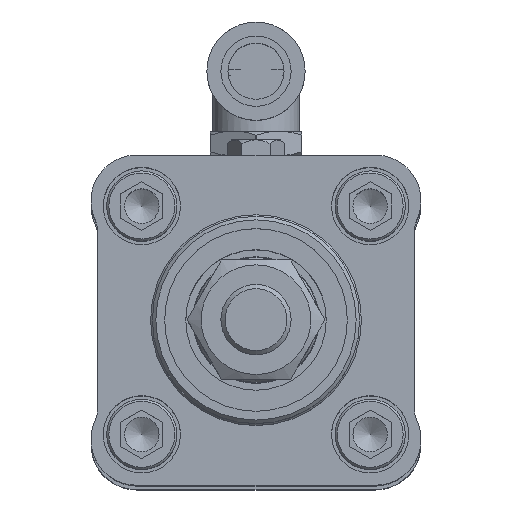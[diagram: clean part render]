
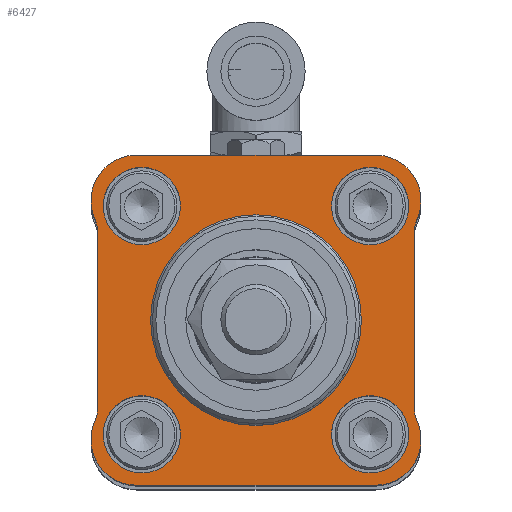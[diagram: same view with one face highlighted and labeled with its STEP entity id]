
A CAD part, top view. The second image highlights one B-rep face of the part: STEP entity #6427.
In plain terms, the highlighted planar face has unit normal (0, 0, 1) as drawn and (-1, 0, 0) by its records, which use the part's own axes.
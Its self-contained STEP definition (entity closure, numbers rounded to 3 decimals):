
#348=LINE('',#9534,#606);
#352=LINE('',#9546,#610);
#356=LINE('',#9558,#614);
#360=LINE('',#9570,#618);
#606=VECTOR('',#8016,1000.);
#610=VECTOR('',#8030,1000.);
#614=VECTOR('',#8044,1000.);
#618=VECTOR('',#8058,1000.);
#780=PLANE('',#6936);
#1615=ORIENTED_EDGE('',*,*,#2376,.T.);
#1616=ORIENTED_EDGE('',*,*,#2377,.T.);
#1617=ORIENTED_EDGE('',*,*,#2378,.T.);
#1618=ORIENTED_EDGE('',*,*,#2379,.T.);
#1619=ORIENTED_EDGE('',*,*,#2380,.T.);
#1620=ORIENTED_EDGE('',*,*,#2353,.T.);
#1621=ORIENTED_EDGE('',*,*,#2356,.F.);
#1622=ORIENTED_EDGE('',*,*,#2358,.T.);
#1623=ORIENTED_EDGE('',*,*,#2360,.F.);
#1624=ORIENTED_EDGE('',*,*,#2362,.F.);
#1625=ORIENTED_EDGE('',*,*,#2364,.F.);
#1626=ORIENTED_EDGE('',*,*,#2366,.T.);
#1627=ORIENTED_EDGE('',*,*,#2368,.F.);
#1628=ORIENTED_EDGE('',*,*,#2370,.T.);
#1629=ORIENTED_EDGE('',*,*,#2372,.F.);
#1630=ORIENTED_EDGE('',*,*,#2374,.F.);
#1631=ORIENTED_EDGE('',*,*,#2375,.F.);
#2353=EDGE_CURVE('',#2830,#2829,#3123,.T.);
#2356=EDGE_CURVE('',#2831,#2829,#348,.T.);
#2358=EDGE_CURVE('',#2831,#2832,#3124,.T.);
#2360=EDGE_CURVE('',#2833,#2832,#3125,.T.);
#2362=EDGE_CURVE('',#2834,#2833,#352,.T.);
#2364=EDGE_CURVE('',#2835,#2834,#3126,.T.);
#2366=EDGE_CURVE('',#2835,#2836,#3127,.T.);
#2368=EDGE_CURVE('',#2837,#2836,#356,.T.);
#2370=EDGE_CURVE('',#2837,#2838,#3128,.T.);
#2372=EDGE_CURVE('',#2839,#2838,#3129,.T.);
#2374=EDGE_CURVE('',#2840,#2839,#360,.T.);
#2375=EDGE_CURVE('',#2830,#2840,#3130,.T.);
#2376=EDGE_CURVE('',#2841,#2841,#3131,.T.);
#2377=EDGE_CURVE('',#2842,#2842,#3132,.T.);
#2378=EDGE_CURVE('',#2843,#2843,#3133,.T.);
#2379=EDGE_CURVE('',#2844,#2844,#3134,.T.);
#2380=EDGE_CURVE('',#2845,#2845,#3135,.T.);
#2829=VERTEX_POINT('',#9527);
#2830=VERTEX_POINT('',#9529);
#2831=VERTEX_POINT('',#9533);
#2832=VERTEX_POINT('',#9537);
#2833=VERTEX_POINT('',#9541);
#2834=VERTEX_POINT('',#9545);
#2835=VERTEX_POINT('',#9549);
#2836=VERTEX_POINT('',#9553);
#2837=VERTEX_POINT('',#9557);
#2838=VERTEX_POINT('',#9561);
#2839=VERTEX_POINT('',#9565);
#2840=VERTEX_POINT('',#9569);
#2841=VERTEX_POINT('',#9575);
#2842=VERTEX_POINT('',#9577);
#2843=VERTEX_POINT('',#9579);
#2844=VERTEX_POINT('',#9581);
#2845=VERTEX_POINT('',#9583);
#3123=CIRCLE('',#6917,4.5);
#3124=CIRCLE('',#6920,4.5);
#3125=CIRCLE('',#6922,6.5);
#3126=CIRCLE('',#6925,6.5);
#3127=CIRCLE('',#6927,4.5);
#3128=CIRCLE('',#6930,4.5);
#3129=CIRCLE('',#6932,6.5);
#3130=CIRCLE('',#6935,6.5);
#3131=CIRCLE('',#6937,15.);
#3132=CIRCLE('',#6938,5.5);
#3133=CIRCLE('',#6939,5.5);
#3134=CIRCLE('',#6940,5.5);
#3135=CIRCLE('',#6941,5.5);
#3494=EDGE_LOOP('',(#1615));
#3495=EDGE_LOOP('',(#1616));
#3496=EDGE_LOOP('',(#1617));
#3497=EDGE_LOOP('',(#1618));
#3498=EDGE_LOOP('',(#1619));
#3499=EDGE_LOOP('',(#1620,#1621,#1622,#1623,#1624,#1625,#1626,#1627,#1628,
#1629,#1630,#1631));
#3979=FACE_BOUND('',#3494,.T.);
#3980=FACE_BOUND('',#3495,.T.);
#3981=FACE_BOUND('',#3496,.T.);
#3982=FACE_BOUND('',#3497,.T.);
#3983=FACE_BOUND('',#3498,.T.);
#3984=FACE_BOUND('',#3499,.T.);
#6427=ADVANCED_FACE('',(#3979,#3980,#3981,#3982,#3983,#3984),#780,.F.);
#6917=AXIS2_PLACEMENT_3D('',#9528,#8010,#8011);
#6920=AXIS2_PLACEMENT_3D('',#9538,#8020,#8021);
#6922=AXIS2_PLACEMENT_3D('',#9542,#8025,#8026);
#6925=AXIS2_PLACEMENT_3D('',#9550,#8034,#8035);
#6927=AXIS2_PLACEMENT_3D('',#9554,#8039,#8040);
#6930=AXIS2_PLACEMENT_3D('',#9562,#8048,#8049);
#6932=AXIS2_PLACEMENT_3D('',#9566,#8053,#8054);
#6935=AXIS2_PLACEMENT_3D('',#9572,#8061,#8062);
#6936=AXIS2_PLACEMENT_3D('',#9573,#8063,#8064);
#6937=AXIS2_PLACEMENT_3D('',#9574,#8065,#8066);
#6938=AXIS2_PLACEMENT_3D('',#9576,#8067,#8068);
#6939=AXIS2_PLACEMENT_3D('',#9578,#8069,#8070);
#6940=AXIS2_PLACEMENT_3D('',#9580,#8071,#8072);
#6941=AXIS2_PLACEMENT_3D('',#9582,#8073,#8074);
#8010=DIRECTION('',(1.,0.,0.));
#8011=DIRECTION('',(0.,0.,-1.));
#8016=DIRECTION('',(0.,-1.,0.));
#8020=DIRECTION('',(1.,0.,0.));
#8021=DIRECTION('',(0.,0.,-1.));
#8025=DIRECTION('',(1.,0.,0.));
#8026=DIRECTION('',(0.,0.,-1.));
#8030=DIRECTION('',(0.,0.,1.));
#8034=DIRECTION('',(1.,0.,0.));
#8035=DIRECTION('',(0.,0.,-1.));
#8039=DIRECTION('',(1.,0.,0.));
#8040=DIRECTION('',(0.,0.,-1.));
#8044=DIRECTION('',(0.,1.,0.));
#8048=DIRECTION('',(1.,0.,0.));
#8049=DIRECTION('',(0.,0.,-1.));
#8053=DIRECTION('',(1.,0.,0.));
#8054=DIRECTION('',(0.,0.,-1.));
#8058=DIRECTION('',(0.,0.,-1.));
#8061=DIRECTION('',(1.,0.,0.));
#8062=DIRECTION('',(0.,0.,-1.));
#8063=DIRECTION('',(1.,0.,0.));
#8064=DIRECTION('',(0.,0.,-1.));
#8065=DIRECTION('',(1.,0.,0.));
#8066=DIRECTION('',(0.,0.,-1.));
#8067=DIRECTION('',(1.,0.,0.));
#8068=DIRECTION('',(0.,0.,-1.));
#8069=DIRECTION('',(1.,0.,0.));
#8070=DIRECTION('',(0.,0.,-1.));
#8071=DIRECTION('',(1.,0.,0.));
#8072=DIRECTION('',(0.,0.,-1.));
#8073=DIRECTION('',(1.,0.,0.));
#8074=DIRECTION('',(0.,0.,-1.));
#9527=CARTESIAN_POINT('',(-30.,-12.417,22.5));
#9528=CARTESIAN_POINT('',(-30.,-12.417,27.));
#9529=CARTESIAN_POINT('',(-30.,-14.292,22.909));
#9533=CARTESIAN_POINT('',(-30.,12.417,22.5));
#9534=CARTESIAN_POINT('',(-30.,12.417,22.5));
#9537=CARTESIAN_POINT('',(-30.,14.292,22.909));
#9538=CARTESIAN_POINT('',(-30.,12.417,27.));
#9541=CARTESIAN_POINT('',(-30.,23.5,17.));
#9542=CARTESIAN_POINT('',(-30.,17.,17.));
#9545=CARTESIAN_POINT('',(-30.,23.5,-17.));
#9546=CARTESIAN_POINT('',(-30.,23.5,-17.));
#9549=CARTESIAN_POINT('',(-30.,14.292,-22.909));
#9550=CARTESIAN_POINT('',(-30.,17.,-17.));
#9553=CARTESIAN_POINT('',(-30.,12.417,-22.5));
#9554=CARTESIAN_POINT('',(-30.,12.417,-27.));
#9557=CARTESIAN_POINT('',(-30.,-12.417,-22.5));
#9558=CARTESIAN_POINT('',(-30.,-12.417,-22.5));
#9561=CARTESIAN_POINT('',(-30.,-14.292,-22.909));
#9562=CARTESIAN_POINT('',(-30.,-12.417,-27.));
#9565=CARTESIAN_POINT('',(-30.,-23.5,-17.));
#9566=CARTESIAN_POINT('',(-30.,-17.,-17.));
#9569=CARTESIAN_POINT('',(-30.,-23.5,17.));
#9570=CARTESIAN_POINT('',(-30.,-23.5,17.));
#9572=CARTESIAN_POINT('',(-30.,-17.,17.));
#9573=CARTESIAN_POINT('',(-30.,-12.417,27.));
#9574=CARTESIAN_POINT('',(-30.,0.,0.));
#9575=CARTESIAN_POINT('',(-30.,0.,-15.));
#9576=CARTESIAN_POINT('',(-30.,16.25,-16.25));
#9577=CARTESIAN_POINT('',(-30.,16.25,-21.75));
#9578=CARTESIAN_POINT('',(-30.,-16.25,-16.25));
#9579=CARTESIAN_POINT('',(-30.,-16.25,-21.75));
#9580=CARTESIAN_POINT('',(-30.,-16.25,16.25));
#9581=CARTESIAN_POINT('',(-30.,-16.25,10.75));
#9582=CARTESIAN_POINT('',(-30.,16.25,16.25));
#9583=CARTESIAN_POINT('',(-30.,16.25,10.75));
